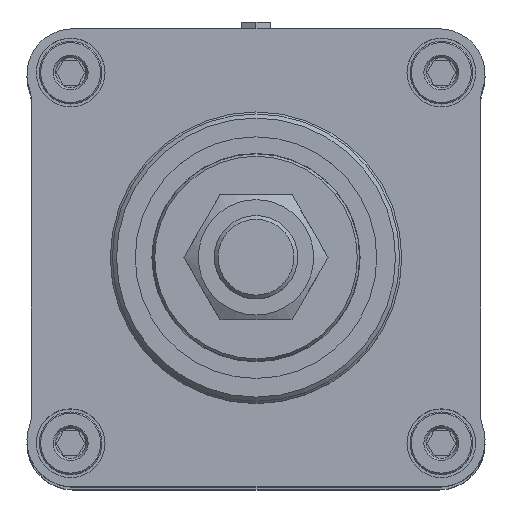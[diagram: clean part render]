
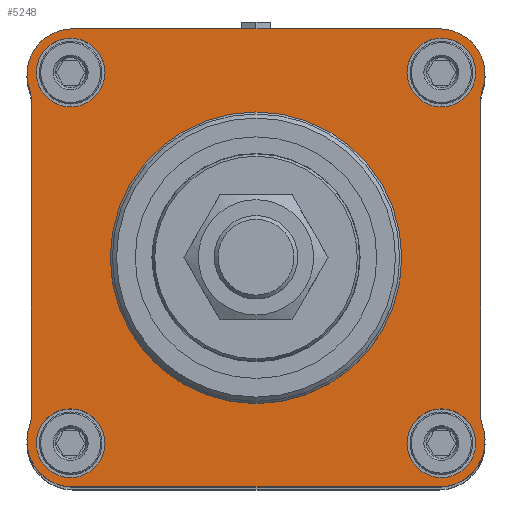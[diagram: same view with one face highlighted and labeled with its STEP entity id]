
A CAD part, top view. The second image highlights one B-rep face of the part: STEP entity #5248.
In plain terms, the highlighted planar face has unit normal (0, 0, 1) as drawn and (-1, 0, 0) by its records, which use the part's own axes.
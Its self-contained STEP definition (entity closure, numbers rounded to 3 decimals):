
#298=CIRCLE('',#5628,35.);
#305=CIRCLE('',#5641,11.);
#307=CIRCLE('',#5644,4.5);
#309=CIRCLE('',#5648,4.5);
#311=CIRCLE('',#5651,11.);
#313=CIRCLE('',#5655,11.);
#315=CIRCLE('',#5658,4.5);
#317=CIRCLE('',#5662,4.5);
#319=CIRCLE('',#5665,11.);
#320=CIRCLE('',#5667,8.25);
#321=CIRCLE('',#5668,8.25);
#322=CIRCLE('',#5669,8.25);
#323=CIRCLE('',#5670,8.25);
#909=ORIENTED_EDGE('',*,*,#1566,.T.);
#910=ORIENTED_EDGE('',*,*,#1567,.T.);
#911=ORIENTED_EDGE('',*,*,#1568,.T.);
#912=ORIENTED_EDGE('',*,*,#1569,.T.);
#913=ORIENTED_EDGE('',*,*,#1524,.F.);
#914=ORIENTED_EDGE('',*,*,#1532,.F.);
#915=ORIENTED_EDGE('',*,*,#1565,.F.);
#916=ORIENTED_EDGE('',*,*,#1562,.T.);
#917=ORIENTED_EDGE('',*,*,#1559,.F.);
#918=ORIENTED_EDGE('',*,*,#1556,.T.);
#919=ORIENTED_EDGE('',*,*,#1553,.F.);
#920=ORIENTED_EDGE('',*,*,#1550,.F.);
#921=ORIENTED_EDGE('',*,*,#1547,.F.);
#922=ORIENTED_EDGE('',*,*,#1544,.T.);
#923=ORIENTED_EDGE('',*,*,#1541,.F.);
#924=ORIENTED_EDGE('',*,*,#1538,.T.);
#925=ORIENTED_EDGE('',*,*,#1535,.F.);
#1524=EDGE_CURVE('',#1921,#1921,#298,.F.);
#1532=EDGE_CURVE('',#1929,#1930,#2210,.T.);
#1535=EDGE_CURVE('',#1930,#1932,#305,.T.);
#1538=EDGE_CURVE('',#1934,#1932,#307,.T.);
#1541=EDGE_CURVE('',#1934,#1936,#2215,.T.);
#1544=EDGE_CURVE('',#1938,#1936,#309,.T.);
#1547=EDGE_CURVE('',#1938,#1940,#311,.T.);
#1550=EDGE_CURVE('',#1940,#1942,#2220,.T.);
#1553=EDGE_CURVE('',#1942,#1944,#313,.T.);
#1556=EDGE_CURVE('',#1946,#1944,#315,.T.);
#1559=EDGE_CURVE('',#1946,#1948,#2225,.T.);
#1562=EDGE_CURVE('',#1950,#1948,#317,.T.);
#1565=EDGE_CURVE('',#1950,#1929,#319,.T.);
#1566=EDGE_CURVE('',#1951,#1951,#320,.T.);
#1567=EDGE_CURVE('',#1952,#1952,#321,.T.);
#1568=EDGE_CURVE('',#1953,#1953,#322,.T.);
#1569=EDGE_CURVE('',#1954,#1954,#323,.T.);
#1921=VERTEX_POINT('',#7561);
#1929=VERTEX_POINT('',#7581);
#1930=VERTEX_POINT('',#7583);
#1932=VERTEX_POINT('',#7589);
#1934=VERTEX_POINT('',#7595);
#1936=VERTEX_POINT('',#7601);
#1938=VERTEX_POINT('',#7607);
#1940=VERTEX_POINT('',#7613);
#1942=VERTEX_POINT('',#7619);
#1944=VERTEX_POINT('',#7625);
#1946=VERTEX_POINT('',#7631);
#1948=VERTEX_POINT('',#7637);
#1950=VERTEX_POINT('',#7643);
#1951=VERTEX_POINT('',#7650);
#1952=VERTEX_POINT('',#7652);
#1953=VERTEX_POINT('',#7654);
#1954=VERTEX_POINT('',#7656);
#2210=LINE('',#7582,#2442);
#2215=LINE('',#7600,#2447);
#2220=LINE('',#7618,#2452);
#2225=LINE('',#7636,#2457);
#2442=VECTOR('',#6490,1000.);
#2447=VECTOR('',#6509,1000.);
#2452=VECTOR('',#6528,1000.);
#2457=VECTOR('',#6547,1000.);
#2778=EDGE_LOOP('',(#909));
#2779=EDGE_LOOP('',(#910));
#2780=EDGE_LOOP('',(#911));
#2781=EDGE_LOOP('',(#912));
#2782=EDGE_LOOP('',(#913));
#2783=EDGE_LOOP('',(#914,#915,#916,#917,#918,#919,#920,#921,#922,#923,#924,
#925));
#3195=FACE_BOUND('',#2778,.T.);
#3196=FACE_BOUND('',#2779,.T.);
#3197=FACE_BOUND('',#2780,.T.);
#3198=FACE_BOUND('',#2781,.T.);
#3199=FACE_BOUND('',#2782,.T.);
#3200=FACE_BOUND('',#2783,.T.);
#3453=PLANE('',#5666);
#5248=ADVANCED_FACE('',(#3195,#3196,#3197,#3198,#3199,#3200),#3453,.F.);
#5628=AXIS2_PLACEMENT_3D('',#7560,#6466,#6467);
#5641=AXIS2_PLACEMENT_3D('',#7588,#6496,#6497);
#5644=AXIS2_PLACEMENT_3D('',#7594,#6503,#6504);
#5648=AXIS2_PLACEMENT_3D('',#7606,#6515,#6516);
#5651=AXIS2_PLACEMENT_3D('',#7612,#6522,#6523);
#5655=AXIS2_PLACEMENT_3D('',#7624,#6534,#6535);
#5658=AXIS2_PLACEMENT_3D('',#7630,#6541,#6542);
#5662=AXIS2_PLACEMENT_3D('',#7642,#6553,#6554);
#5665=AXIS2_PLACEMENT_3D('',#7647,#6560,#6561);
#5666=AXIS2_PLACEMENT_3D('',#7648,#6562,#6563);
#5667=AXIS2_PLACEMENT_3D('',#7649,#6564,#6565);
#5668=AXIS2_PLACEMENT_3D('',#7651,#6566,#6567);
#5669=AXIS2_PLACEMENT_3D('',#7653,#6568,#6569);
#5670=AXIS2_PLACEMENT_3D('',#7655,#6570,#6571);
#6466=DIRECTION('',(1.,0.,0.));
#6467=DIRECTION('',(0.,0.,-1.));
#6490=DIRECTION('',(0.,-1.,0.));
#6496=DIRECTION('',(1.,0.,0.));
#6497=DIRECTION('',(0.,0.,-1.));
#6503=DIRECTION('',(1.,0.,0.));
#6504=DIRECTION('',(0.,0.,-1.));
#6509=DIRECTION('',(0.,0.,-1.));
#6515=DIRECTION('',(1.,0.,0.));
#6516=DIRECTION('',(0.,0.,-1.));
#6522=DIRECTION('',(1.,0.,0.));
#6523=DIRECTION('',(0.,0.,-1.));
#6528=DIRECTION('',(0.,1.,0.));
#6534=DIRECTION('',(1.,0.,0.));
#6535=DIRECTION('',(0.,0.,-1.));
#6541=DIRECTION('',(1.,0.,0.));
#6542=DIRECTION('',(0.,0.,-1.));
#6547=DIRECTION('',(0.,0.,1.));
#6553=DIRECTION('',(1.,0.,0.));
#6554=DIRECTION('',(0.,0.,-1.));
#6560=DIRECTION('',(1.,0.,0.));
#6561=DIRECTION('',(0.,0.,-1.));
#6562=DIRECTION('',(1.,0.,0.));
#6563=DIRECTION('',(0.,0.,-1.));
#6564=DIRECTION('',(1.,0.,0.));
#6565=DIRECTION('',(0.,0.,-1.));
#6566=DIRECTION('',(1.,0.,0.));
#6567=DIRECTION('',(0.,0.,-1.));
#6568=DIRECTION('',(1.,0.,0.));
#6569=DIRECTION('',(0.,0.,-1.));
#6570=DIRECTION('',(1.,0.,0.));
#6571=DIRECTION('',(0.,0.,-1.));
#7560=CARTESIAN_POINT('',(-42.,0.,0.));
#7561=CARTESIAN_POINT('',(-42.,0.,-35.));
#7581=CARTESIAN_POINT('',(-42.,44.,55.));
#7582=CARTESIAN_POINT('',(-42.,44.,55.));
#7583=CARTESIAN_POINT('',(-42.,-44.,55.));
#7588=CARTESIAN_POINT('',(-42.,-44.,44.));
#7589=CARTESIAN_POINT('',(-42.,-54.29,40.113));
#7594=CARTESIAN_POINT('',(-42.,-58.5,38.523));
#7595=CARTESIAN_POINT('',(-42.,-54.,38.523));
#7600=CARTESIAN_POINT('',(-42.,-54.,38.523));
#7601=CARTESIAN_POINT('',(-42.,-54.,-38.523));
#7606=CARTESIAN_POINT('',(-42.,-58.5,-38.523));
#7607=CARTESIAN_POINT('',(-42.,-54.29,-40.113));
#7612=CARTESIAN_POINT('',(-42.,-44.,-44.));
#7613=CARTESIAN_POINT('',(-42.,-44.,-55.));
#7618=CARTESIAN_POINT('',(-42.,-44.,-55.));
#7619=CARTESIAN_POINT('',(-42.,44.,-55.));
#7624=CARTESIAN_POINT('',(-42.,44.,-44.));
#7625=CARTESIAN_POINT('',(-42.,54.29,-40.113));
#7630=CARTESIAN_POINT('',(-42.,58.5,-38.523));
#7631=CARTESIAN_POINT('',(-42.,54.,-38.523));
#7636=CARTESIAN_POINT('',(-42.,54.,-38.523));
#7637=CARTESIAN_POINT('',(-42.,54.,38.523));
#7642=CARTESIAN_POINT('',(-42.,58.5,38.523));
#7643=CARTESIAN_POINT('',(-42.,54.29,40.113));
#7647=CARTESIAN_POINT('',(-42.,44.,44.));
#7648=CARTESIAN_POINT('',(-42.,-44.,44.));
#7649=CARTESIAN_POINT('',(-42.,-44.5,44.5));
#7650=CARTESIAN_POINT('',(-42.,-44.5,36.25));
#7651=CARTESIAN_POINT('',(-42.,-44.5,-44.5));
#7652=CARTESIAN_POINT('',(-42.,-44.5,-52.75));
#7653=CARTESIAN_POINT('',(-42.,44.5,-44.5));
#7654=CARTESIAN_POINT('',(-42.,44.5,-52.75));
#7655=CARTESIAN_POINT('',(-42.,44.5,44.5));
#7656=CARTESIAN_POINT('',(-42.,44.5,36.25));
